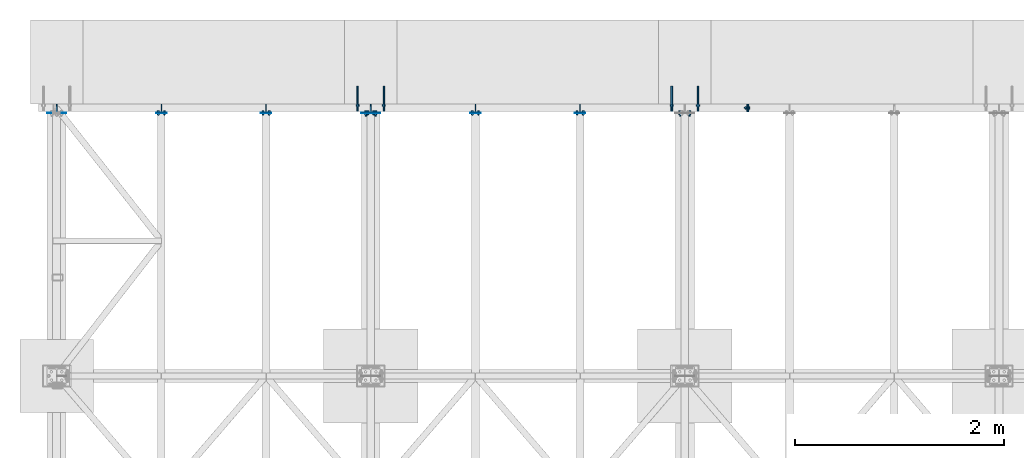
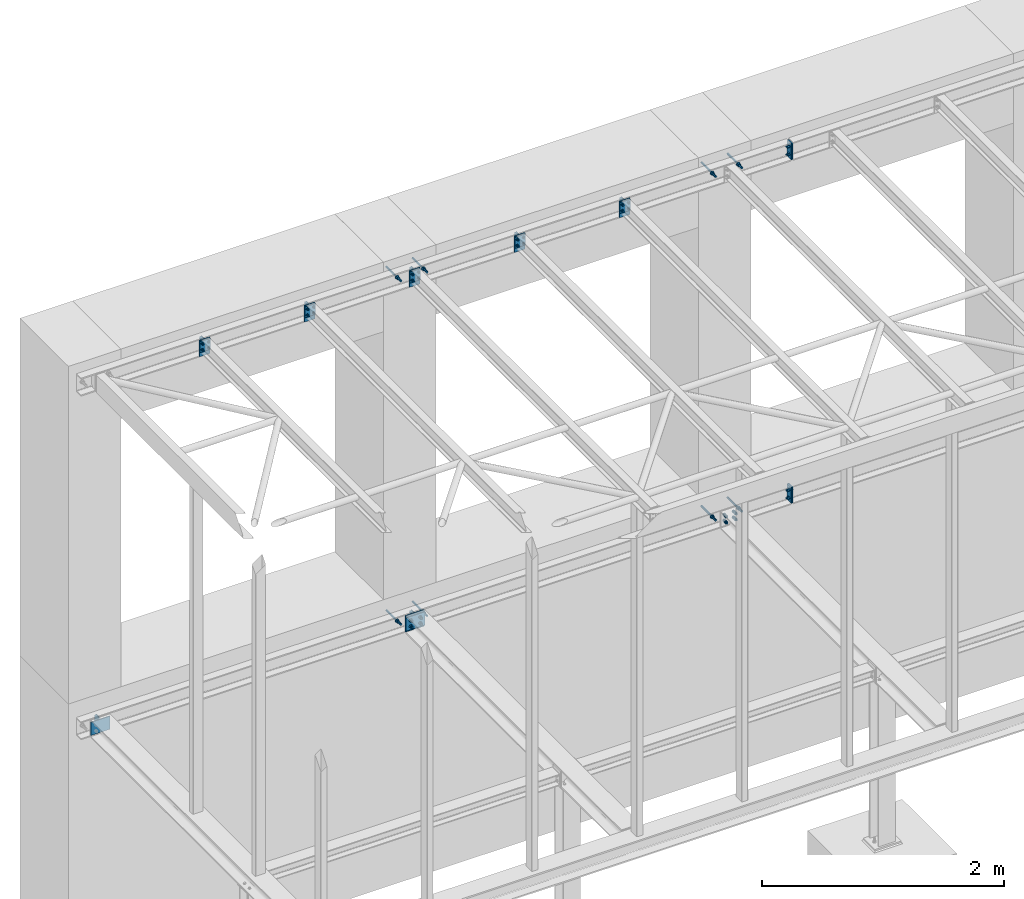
# One storey, part 15 of 22: 24 discrete accessories, 13 mechanical fasteners, 11 elements without a shape of their own.
"""IFC2X3 building model written with IfcOpenShell, lengths in millimetres."""

import ifcopenshell
import ifcopenshell.guid

model = None  # the IFC model being written
_history = None  # IfcOwnerHistory: only IFC2X3 demands one
_inside = {}  # id of a spatial element -> (the spatial element, [elements in it])
_under = {}  # id of a project, library or spatial element -> (it, [spatial elements below it])
_declared = {}  # id of a project -> (the project, [libraries it declares])
_typed = {}  # id of a type object -> (the type object, [elements of that type])
_made_of = {}  # id of a material, layer set ... -> (it, [elements and type objects made of it])


def new_model(schema):
    """Start an empty IFC model of exactly this schema.

    Asked for "IFC4X3", IfcOpenShell would pick the latest addendum, in which some entities
    have other attributes; the version numbers below select the first issue.
    IFC2X3 requires an IfcOwnerHistory on every rooted entity: one is made here for all.
    """
    global model, _history
    if schema == "IFC4X3":
        model = ifcopenshell.file(schema_version=(4, 3, 0, 0))
    else:
        model = ifcopenshell.file(schema=schema)
    _inside.clear()
    _under.clear()
    _declared.clear()
    _typed.clear()
    _made_of.clear()
    _history = None
    if model.schema == "IFC2X3":
        org = make("IfcOrganization", Name="unknown")
        user = make(
            "IfcPersonAndOrganization",
            ThePerson=make("IfcPerson", FamilyName="unknown"),
            TheOrganization=org,
        )
        app = make(
            "IfcApplication",
            ApplicationDeveloper=org,
            Version="unknown",
            ApplicationFullName="unknown",
            ApplicationIdentifier="unknown",
        )
        _history = make(
            "IfcOwnerHistory",
            OwningUser=user,
            OwningApplication=app,
            ChangeAction="ADDED",
            CreationDate=0,
        )
    return model


def make(cls, **values):
    """One entity of the class cls with the attributes given. An attribute that is None is left unset."""
    return model.create_entity(
        cls, **{name: value for name, value in values.items() if value is not None}
    )


def rooted(cls, **values):
    """An entity with a GlobalId (a new one), such as an element, a storey or a relation."""
    return make(cls, GlobalId=ifcopenshell.guid.new(), OwnerHistory=_history, **values)


def si_unit(unit_type, name, prefix=None):
    """IfcSIUnit, for example si_unit("LENGTHUNIT", "METRE", prefix="MILLI")."""
    return make("IfcSIUnit", UnitType=unit_type, Prefix=prefix, Name=name)


def assignment(units):
    """IfcUnitAssignment: the units of a project."""
    return None if units is None else make("IfcUnitAssignment", Units=units)


def point(xyz):
    """IfcCartesianPoint."""
    return None if xyz is None else make("IfcCartesianPoint", Coordinates=xyz)


def direction(xyz):
    """IfcDirection."""
    return None if xyz is None else make("IfcDirection", DirectionRatios=xyz)


def frame(location, z_axis=None, x_axis=None):
    """IfcAxis2Placement3D, a coordinate frame: its origin and axes. An axis left out is left unset."""
    return make(
        "IfcAxis2Placement3D",
        Location=point(location),
        Axis=direction(z_axis),
        RefDirection=direction(x_axis),
    )


def frame_2d(location, x_axis=None):
    """IfcAxis2Placement2D, a coordinate frame in the plane: its origin and x axis."""
    return make(
        "IfcAxis2Placement2D", Location=point(location), RefDirection=direction(x_axis)
    )


def origin_with_axes():
    """The frame at (0, 0, 0) with the z axis (0, 0, 1) and the x axis (1, 0, 0) written out."""
    return frame((0.0, 0.0, 0.0), z_axis=(0.0, 0.0, 1.0), x_axis=(1.0, 0.0, 0.0))


def origin_2d_with_axis():
    """The frame at (0, 0) in the plane with the x axis (1, 0) written out."""
    return frame_2d((0.0, 0.0), x_axis=(1.0, 0.0))


def place(relative_to, where):
    """IfcLocalPlacement: puts the frame where relative to a parent placement (None: the world)."""
    return make(
        "IfcLocalPlacement", PlacementRelTo=relative_to, RelativePlacement=where
    )


def context(
    kind, dimensions, precision=None, world=None, true_north=None, identifier=None
):
    """IfcGeometricRepresentationContext, for example the 3D "Model" context."""
    return make(
        "IfcGeometricRepresentationContext",
        ContextIdentifier=identifier,
        ContextType=kind,
        CoordinateSpaceDimension=dimensions,
        Precision=precision,
        WorldCoordinateSystem=world,
        TrueNorth=true_north,
    )


def subcontext(parent, identifier, kind, view, scale=None):
    """IfcGeometricRepresentationSubContext, for example "Body" below "Model"."""
    return make(
        "IfcGeometricRepresentationSubContext",
        ContextIdentifier=identifier,
        ContextType=kind,
        ParentContext=parent,
        TargetScale=scale,
        TargetView=view,
    )


def project(units=None, contexts=None):
    """IfcProject with its units and contexts."""
    return rooted(
        "IfcProject",
        Name="project",
        RepresentationContexts=contexts,
        UnitsInContext=assignment(units),
    )


def spatial(cls, under=None, at=None, **own):
    """A site, building, storey or space (cls), placed at a placement, below another one or the project."""
    s = rooted(cls, ObjectPlacement=at, **own)
    if under is not None:
        _under.setdefault(under.id(), (under, []))[1].append(s)
    return s


def polyline(points):
    """IfcPolyline through the points."""
    return make("IfcPolyline", Points=[point(p) for p in points])


def circle_curve(where, radius):
    """IfcCircle in the frame where."""
    return make("IfcCircle", Position=where, Radius=radius)


def parameter(value):
    """IfcParameterValue: where a trimmed curve begins or ends, as a parameter of its basis curve."""
    return model.create_entity("IfcParameterValue", value)


def trimmed(basis, trim1, trim2, sense, master):
    """IfcTrimmedCurve: the piece of a basis curve between two trims."""
    return make(
        "IfcTrimmedCurve",
        BasisCurve=basis,
        Trim1=trim1,
        Trim2=trim2,
        SenseAgreement=sense,
        MasterRepresentation=master,
    )


def segment(curve, same_sense, transition):
    """IfcCompositeCurveSegment."""
    return make(
        "IfcCompositeCurveSegment",
        Transition=transition,
        SameSense=same_sense,
        ParentCurve=curve,
    )


def composite_curve(segments, self_intersect=None):
    """IfcCompositeCurve: segments joined end to end."""
    return make("IfcCompositeCurve", Segments=segments, SelfIntersect=self_intersect)


def profile(cls, at=None, kind="AREA", **sizes):
    """A parametric profile (cls). Its sizes go by their IFC names, for example OverallWidth=200.0."""
    return make(cls, ProfileType=kind, Position=at, **sizes)


def circle(**sizes):
    """IfcCircleProfileDef."""
    return profile("IfcCircleProfileDef", **sizes)


def outline(outer, holes=None, kind="AREA"):
    """IfcArbitraryClosedProfileDef: a profile drawn as a closed curve; with holes, ...WithVoids."""
    if holes is None:
        return make("IfcArbitraryClosedProfileDef", ProfileType=kind, OuterCurve=outer)
    return make(
        "IfcArbitraryProfileDefWithVoids",
        ProfileType=kind,
        OuterCurve=outer,
        InnerCurves=holes,
    )


def extrude(swept, where, along, depth):
    """IfcExtrudedAreaSolid: the profile swept, set in the frame where, extruded along a direction by depth."""
    return make(
        "IfcExtrudedAreaSolid",
        SweptArea=swept,
        Position=where,
        ExtrudedDirection=direction(along),
        Depth=depth,
    )


def shape(context_of_items, identifier, shape_type, items):
    """IfcShapeRepresentation: the items that make up one representation, for example the "Body"."""
    return make(
        "IfcShapeRepresentation",
        ContextOfItems=context_of_items,
        RepresentationIdentifier=identifier,
        RepresentationType=shape_type,
        Items=items,
    )


def source(mapping_origin, context_of_items, identifier, shape_type, items):
    """IfcRepresentationMap: a shape defined once, which mapped items show again and again."""
    return make(
        "IfcRepresentationMap",
        MappingOrigin=mapping_origin,
        MappedRepresentation=shape(context_of_items, identifier, shape_type, items),
    )


def transform(
    local_origin,
    x_axis=None,
    y_axis=None,
    z_axis=None,
    scale=None,
    scale2=None,
    scale3=None,
    uniform=True,
):
    """IfcCartesianTransformationOperator3D, or its non-uniform kind. x_axis, y_axis, z_axis: its Axis1, 2, 3."""
    if uniform:
        return make(
            "IfcCartesianTransformationOperator3D",
            Axis1=direction(x_axis),
            Axis2=direction(y_axis),
            LocalOrigin=point(local_origin),
            Scale=scale,
            Axis3=direction(z_axis),
        )
    return make(
        "IfcCartesianTransformationOperator3DnonUniform",
        Axis1=direction(x_axis),
        Axis2=direction(y_axis),
        LocalOrigin=point(local_origin),
        Scale=scale,
        Axis3=direction(z_axis),
        Scale2=scale2,
        Scale3=scale3,
    )


def mapped(mapping_source, mapping_target):
    """IfcMappedItem: shows the shape of a source again, moved by a transform."""
    return make(
        "IfcMappedItem", MappingSource=mapping_source, MappingTarget=mapping_target
    )


def material(Name=None, Category=None):
    """IfcMaterial."""
    return make("IfcMaterial", Name=Name, Category=Category)


def made_of(thing, what):
    """Note that an element or type object is made of a material, layer set ...; save() writes the relation."""
    if what is not None:
        _made_of.setdefault(what.id(), (what, []))[1].append(thing)
    return thing


def type_object(cls, material=None, **own):
    """A type object (cls), such as IfcWallType, which elements share."""
    return made_of(rooted(cls, **own), material)


def element(
    cls,
    number,
    at=None,
    inside=None,
    cuts=None,
    type_object=None,
    material=None,
    context=None,
    identifier="Body",
    shape_type=None,
    held_by="IfcProductDefinitionShape",
    body=None,
    shapes=None,
    **own,
):
    """One element of the class cls, such as IfcWall. Its Tag is "e" and its number.

    at: its placement. inside: the storey or other place that contains it. cuts: it is an
    opening in that element (IfcRelVoidsElement). A single representation is given by context,
    identifier, shape_type and body (its items); several are given by shapes. held_by: the class
    of the entity that holds the representations. save() writes the other relations.
    """
    e = rooted(cls, Tag="e%d" % number, ObjectPlacement=at, **own)
    if body is not None:
        shapes = [shape(context, identifier, shape_type, body)]
    if shapes is not None:
        e.Representation = make(held_by, Representations=shapes)
    if inside is not None:
        _inside.setdefault(inside.id(), (inside, []))[1].append(e)
    if cuts is not None:
        rooted(
            "IfcRelVoidsElement", RelatingBuildingElement=cuts, RelatedOpeningElement=e
        )
    if type_object is not None:
        _typed.setdefault(type_object.id(), (type_object, []))[1].append(e)
    return made_of(e, material)


def aggregate(whole, parts):
    """IfcRelAggregates: a whole, such as a stair, and the parts it consists of."""
    return rooted("IfcRelAggregates", RelatingObject=whole, RelatedObjects=parts)


def save(model, path):
    """Write the relations noted so far, then the file.

    IfcRelAggregates (storeys below a building ...), IfcRelContainedInSpatialStructure (elements
    in a storey), IfcRelDefinesByType, IfcRelAssociatesMaterial and IfcRelDeclares: one each for
    every whole, place, type object, material and project.
    """
    for whole, parts in _under.values():
        aggregate(whole, parts)
    for where, things in _inside.values():
        rooted(
            "IfcRelContainedInSpatialStructure",
            RelatedElements=things,
            RelatingStructure=where,
        )
    for kind, things in _typed.values():
        rooted("IfcRelDefinesByType", RelatedObjects=things, RelatingType=kind)
    for what, things in _made_of.values():
        rooted("IfcRelAssociatesMaterial", RelatedObjects=things, RelatingMaterial=what)
    for by, libraries in _declared.values():
        rooted("IfcRelDeclares", RelatingContext=by, RelatedDefinitions=libraries)
    model.write(path)


model = new_model("IFC2X3")

# Units and contexts
model_context = context("Model", 3, precision=1e-05, world=origin_with_axes())
body_context = subcontext(model_context, "Body", "Model", "MODEL_VIEW")
ifc_project = project(units=[si_unit("LENGTHUNIT", "METRE", prefix="MILLI"), si_unit("AREAUNIT", "SQUARE_METRE"), si_unit("VOLUMEUNIT", "CUBIC_METRE"), si_unit("MASSUNIT", "GRAM", prefix="KILO"), si_unit("TIMEUNIT", "SECOND"), si_unit("PLANEANGLEUNIT", "RADIAN"), si_unit("SOLIDANGLEUNIT", "STERADIAN"), si_unit("THERMODYNAMICTEMPERATUREUNIT", "DEGREE_CELSIUS"), si_unit("LUMINOUSINTENSITYUNIT", "LUMEN")], contexts=[model_context])

# Site, building, storey
site_placement = place(None, origin_with_axes())
site = spatial("IfcSite", under=ifc_project, at=site_placement, Name="Undefined", CompositionType="ELEMENT")
building_placement = place(site_placement, origin_with_axes())
building = spatial("IfcBuilding", under=site, at=building_placement, Name="Undefined", CompositionType="ELEMENT")
storey_placement = place(building_placement, origin_with_axes())
storey = spatial("IfcBuildingStorey", under=building, at=storey_placement, Name="Undefined", CompositionType="ELEMENT", Elevation=0.0)

# Assembly, mechanical fastener
assembly_1_placement = place(storey_placement, origin_with_axes())
assembly_1 = element("IfcElementAssembly", 1, at=assembly_1_placement, inside=storey, Name="Steel Assembly", AssemblyPlace="NOTDEFINED", PredefinedType="RIGID_FRAME")
ifc_material_1 = material(Name="Undefined")
discrete_accessory_type_1 = type_object("IfcDiscreteAccessoryType", Name="Bolt assembly")
shared_shape_1 = source(origin_with_axes(), body_context, "Body", "SweptSolid", [
    extrude(circle(Radius=9.0, at=origin_2d_with_axis()), frame((0.0, -0.1, 0.0), z_axis=(0.0, 1.0, 0.0), x_axis=(1.0, 0.0, 0.0)), (0.0, 0.0, 1.0), 10.1),
    extrude(circle(Radius=9.0, at=origin_2d_with_axis()), frame((0.0, -9.9, 0.0), z_axis=(0.0, 1.0, 0.0), x_axis=(1.0, 0.0, 0.0)), (0.0, 0.0, 1.0), 10.0),
    extrude(outline(polyline([(13.85640646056, 0.0), (6.92820323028, 12.0000000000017), (-6.92820323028, 12.0000000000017), (-13.85640646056, 0.0), (-6.92820323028, -12.0000000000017), (6.92820323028, -12.0000000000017), (13.85640646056, 0.0)])), frame((0.0, -23.0, 0.0), z_axis=(0.0, 1.0, 0.0), x_axis=(1.0, 0.0, 0.0)), (0.0, 0.0, 1.0), 10.0),
    extrude(circle(Radius=8.0, at=origin_2d_with_axis()), frame((0.0, -13.0, 0.0), z_axis=(0.0, 1.0, 0.0), x_axis=(1.0, 0.0, 0.0)), (0.0, 0.0, 1.0), 50.0),
    extrude(circle(Radius=15.0, at=origin_2d_with_axis()), frame((0.0, -13.0, 0.0), z_axis=(0.0, 1.0, 0.0), x_axis=(1.0, 0.0, 0.0)), (0.0, 0.0, 1.0), 3.0),
    extrude(circle(Radius=15.0, at=origin_2d_with_axis()), frame((0.0, 10.0, 0.0), z_axis=(0.0, 1.0, 0.0), x_axis=(1.0, 0.0, 0.0)), (0.0, 0.0, 1.0), 3.0),
    extrude(outline(polyline([(15.4441197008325, 0.0), (7.72205985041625, 13.3750000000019), (-7.72205985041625, 13.3750000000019), (-15.4441197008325, 0.0), (-7.72205985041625, -13.3750000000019), (7.72205985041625, -13.3750000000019), (15.4441197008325, 0.0)])), frame((0.0, 13.0, 0.0), z_axis=(0.0, 1.0, 0.0), x_axis=(1.0, 0.0, 0.0)), (0.0, 0.0, 1.0), 13.0),
])
mechanical_fastener_1_placement = place(assembly_1_placement, frame((6650.0, 3820.5, -249.999999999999), z_axis=(0.0, 0.0, 1.0), x_axis=(0.0, 1.0, 0.0)))
mechanical_fastener_1 = element("IfcMechanicalFastener", 2, at=mechanical_fastener_1_placement, type_object=discrete_accessory_type_1, material=ifc_material_1, Name="Bolt assembly", NominalDiameter=16.0, NominalLength=50.0, context=body_context, shape_type="MappedRepresentation", body=[
    mapped(shared_shape_1, transform((0.0, 0.0, -40.0))),
    mapped(shared_shape_1, transform((0.0, 0.0, 40.0))),
])

assembly_2_placement = place(storey_placement, origin_with_axes())
assembly_2 = element("IfcElementAssembly", 3, at=assembly_2_placement, inside=storey, Name="Steel Assembly", AssemblyPlace="NOTDEFINED", PredefinedType="RIGID_FRAME")
mechanical_fastener_2_placement = place(assembly_2_placement, frame((6650.0, 3820.5, 3210.0), z_axis=(0.0, 0.0, 1.0), x_axis=(0.0, 1.0, 0.0)))
mechanical_fastener_2 = element("IfcMechanicalFastener", 4, at=mechanical_fastener_2_placement, type_object=discrete_accessory_type_1, material=ifc_material_1, Name="Bolt assembly", NominalDiameter=16.0, NominalLength=50.0, context=body_context, shape_type="MappedRepresentation", body=[
    mapped(shared_shape_1, transform((0.0, 0.0, -40.0))),
    mapped(shared_shape_1, transform((0.0, 0.0, 40.0))),
])

# Assembly, discrete accessory
assembly_3_placement = place(storey_placement, origin_with_axes())
assembly_3 = element("IfcElementAssembly", 5, at=assembly_3_placement, inside=storey, Name="Steel Assembly", AssemblyPlace="NOTDEFINED", PredefinedType="RIGID_FRAME")
ifc_material_2 = material(Name="STEEL/S235JR")
discrete_accessory_type_2 = type_object("IfcDiscreteAccessoryType", Name="PLECH")
discrete_accessory_1_placement = place(assembly_3_placement, frame((6645.0, 3855.0, -170.5), z_axis=(1.0, 0.0, 0.0), x_axis=(0.0, -1.0, 0.0)))
discrete_accessory_1 = element("IfcDiscreteAccessory", 6, at=discrete_accessory_1_placement, type_object=discrete_accessory_type_2, material=ifc_material_2, Name="PLECH", ObjectType="PL10*70", context=body_context, shape_type="SweptSolid", body=[
    extrude(outline(polyline([(0.0, 0.0), (70.0, 4.54747350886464e-13), (70.0, 159.0), (-3.63797880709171e-12, 159.0), (0.0, 0.0)])), frame((0.0, 0.0, -5.0), z_axis=(0.0, 0.0, 1.0), x_axis=(1.0, 0.0, 0.0)), (0.0, 0.0, 1.0), 10.0),
])

# Discrete accessory
discrete_accessory_2_placement = place(assembly_1_placement, frame((6655.0, 3855.0, -170.5), z_axis=(1.0, 0.0, 0.0), x_axis=(0.0, -1.0, 0.0)))
discrete_accessory_2 = element("IfcDiscreteAccessory", 7, at=discrete_accessory_2_placement, type_object=discrete_accessory_type_2, material=ifc_material_2, Name="PLECH", ObjectType="PL10*70", context=body_context, shape_type="SweptSolid", body=[
    extrude(outline(polyline([(0.0, 0.0), (70.0, 4.54747350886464e-13), (70.0, 159.0), (-3.63797880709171e-12, 159.0), (0.0, 0.0)])), frame((0.0, 0.0, -5.0), z_axis=(0.0, 0.0, 1.0), x_axis=(1.0, 0.0, 0.0)), (0.0, 0.0, 1.0), 10.0),
])

aggregate(assembly_1, [mechanical_fastener_1, discrete_accessory_2])

# Assembly, discrete accessory
assembly_4_placement = place(storey_placement, origin_with_axes())
assembly_4 = element("IfcElementAssembly", 8, at=assembly_4_placement, inside=storey, Name="Steel Assembly", AssemblyPlace="NOTDEFINED", PredefinedType="RIGID_FRAME")
discrete_accessory_3_placement = place(assembly_4_placement, frame((6645.0, 3855.0, 3289.5), z_axis=(1.0, 0.0, 0.0), x_axis=(0.0, -1.0, 0.0)))
discrete_accessory_3 = element("IfcDiscreteAccessory", 9, at=discrete_accessory_3_placement, type_object=discrete_accessory_type_2, material=ifc_material_2, Name="PLECH", ObjectType="PL10*70", context=body_context, shape_type="SweptSolid", body=[
    extrude(outline(polyline([(0.0, 0.0), (70.0, 4.54747350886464e-13), (70.0, 159.0), (-3.63797880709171e-12, 159.0), (0.0, 0.0)])), frame((0.0, 0.0, -5.0), z_axis=(0.0, 0.0, 1.0), x_axis=(1.0, 0.0, 0.0)), (0.0, 0.0, 1.0), 10.0),
])

# Discrete accessory
discrete_accessory_4_placement = place(assembly_2_placement, frame((6655.0, 3855.0, 3289.5), z_axis=(1.0, 0.0, 0.0), x_axis=(0.0, -1.0, 0.0)))
discrete_accessory_4 = element("IfcDiscreteAccessory", 10, at=discrete_accessory_4_placement, type_object=discrete_accessory_type_2, material=ifc_material_2, Name="PLECH", ObjectType="PL10*70", context=body_context, shape_type="SweptSolid", body=[
    extrude(outline(polyline([(0.0, 0.0), (70.0, 4.54747350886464e-13), (70.0, 159.0), (-3.63797880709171e-12, 159.0), (0.0, 0.0)])), frame((0.0, 0.0, -5.0), z_axis=(0.0, 0.0, 1.0), x_axis=(1.0, 0.0, 0.0)), (0.0, 0.0, 1.0), 10.0),
])

aggregate(assembly_2, [mechanical_fastener_2, discrete_accessory_4])

discrete_accessory_5_placement = place(assembly_3_placement, frame((50.0, 3785.0, -170.5), z_axis=(-1.0, 0.0, 0.0), x_axis=(0.0, 1.0, 0.0)))
discrete_accessory_5 = element("IfcDiscreteAccessory", 11, at=discrete_accessory_5_placement, type_object=discrete_accessory_type_2, material=ifc_material_2, Name="PLECH", ObjectType="PL8*70", context=body_context, shape_type="SweptSolid", body=[
    extrude(outline(composite_curve([segment(polyline([(0.0, 0.0), (49.5, 0.0)]), True, "CONTINUOUS"), segment(trimmed(circle_curve(frame_2d((69.5, 0.0), x_axis=(-1.0, 0.0)), 20.0), [parameter(0.0)], [parameter(4.71238898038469)], False, "PARAMETER"), True, "CONTINUOUS"), segment(polyline([(69.5, 20.0), (69.5, 139.0)]), True, "CONTINUOUS"), segment(trimmed(circle_curve(frame_2d((69.5, 159.0), x_axis=(0.0, -1.0)), 20.0), [parameter(0.0)], [parameter(4.71238898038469)], False, "PARAMETER"), True, "CONTINUOUS"), segment(polyline([(49.5, 159.0), (-3.63797880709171e-12, 159.0), (0.0, 0.0)]), True, "DISCONTINUOUS")], self_intersect=False)), frame((0.0, 0.0, -4.0), z_axis=(0.0, 0.0, 1.0), x_axis=(1.0, 0.0, 0.0)), (0.0, 0.0, 1.0), 8.0),
])

# Assembly, discrete accessory
assembly_5_placement = place(storey_placement, origin_with_axes())
assembly_5 = element("IfcElementAssembly", 12, at=assembly_5_placement, inside=storey, Name="Steel Assembly", AssemblyPlace="NOTDEFINED", PredefinedType="RIGID_FRAME")
discrete_accessory_6_placement = place(assembly_5_placement, frame((-40.0, 3771.0, -184.0), z_axis=(0.0, 1.0, 0.0), x_axis=(1.0, 0.0, 0.0)))
discrete_accessory_6 = element("IfcDiscreteAccessory", 13, at=discrete_accessory_6_placement, type_object=discrete_accessory_type_2, material=ifc_material_2, Name="PLECH", ObjectType="PL8*132", context=body_context, shape_type="SweptSolid", body=[
    extrude(outline(polyline([(0.0, 0.0), (180.0, 0.0), (180.0, 132.0), (0.0, 132.0), (0.0, 0.0)])), frame((0.0, 0.0, -4.0), z_axis=(0.0, 0.0, 1.0), x_axis=(1.0, 0.0, 0.0)), (0.0, 0.0, 1.0), 8.0),
])
aggregate(assembly_5, [discrete_accessory_6])

# Discrete accessory
discrete_accessory_7_placement = place(assembly_3_placement, frame((2960.0, 3780.0, -168.0), z_axis=(0.0, 1.0, 0.0), x_axis=(1.0, 0.0, 0.0)))
discrete_accessory_7 = element("IfcDiscreteAccessory", 14, at=discrete_accessory_7_placement, type_object=discrete_accessory_type_2, material=ifc_material_2, Name="PLECH", ObjectType="PL10*164", context=body_context, shape_type="SweptSolid", body=[
    extrude(outline(polyline([(0.0, 0.0), (180.0, 0.0), (180.0, 164.0), (0.0, 164.0), (0.0, 0.0)])), frame((0.0, 0.0, -5.0), z_axis=(0.0, 0.0, 1.0), x_axis=(1.0, 0.0, 0.0)), (0.0, 0.0, 1.0), 10.0),
])

discrete_accessory_8_placement = place(assembly_3_placement, frame((3050.0, 3785.0, -170.5), z_axis=(-1.0, 0.0, 0.0), x_axis=(0.0, 1.0, 0.0)))
discrete_accessory_8 = element("IfcDiscreteAccessory", 15, at=discrete_accessory_8_placement, type_object=discrete_accessory_type_2, material=ifc_material_2, Name="PLECH", ObjectType="PL8*70", context=body_context, shape_type="SweptSolid", body=[
    extrude(outline(composite_curve([segment(polyline([(0.0, 0.0), (49.5, 0.0)]), True, "CONTINUOUS"), segment(trimmed(circle_curve(frame_2d((69.5, 0.0), x_axis=(-1.0, 0.0)), 20.0), [parameter(0.0)], [parameter(4.71238898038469)], False, "PARAMETER"), True, "CONTINUOUS"), segment(polyline([(69.5, 20.0), (69.5, 139.0)]), True, "CONTINUOUS"), segment(trimmed(circle_curve(frame_2d((69.5, 159.0), x_axis=(0.0, -1.0)), 20.0), [parameter(0.0)], [parameter(4.71238898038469)], False, "PARAMETER"), True, "CONTINUOUS"), segment(polyline([(49.5, 159.0), (-3.63797880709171e-12, 159.0), (0.0, 0.0)]), True, "DISCONTINUOUS")], self_intersect=False)), frame((0.0, 0.0, -4.0), z_axis=(0.0, 0.0, 1.0), x_axis=(1.0, 0.0, 0.0)), (0.0, 0.0, 1.0), 8.0),
])

# Assembly, discrete accessory
assembly_6_placement = place(storey_placement, origin_with_axes())
assembly_6 = element("IfcElementAssembly", 16, at=assembly_6_placement, inside=storey, Name="Steel Assembly", AssemblyPlace="NOTDEFINED", PredefinedType="RIGID_FRAME")
discrete_accessory_9_placement = place(assembly_6_placement, frame((2960.0, 3771.0, -184.0), z_axis=(0.0, 1.0, 0.0), x_axis=(1.0, 0.0, 0.0)))
discrete_accessory_9 = element("IfcDiscreteAccessory", 17, at=discrete_accessory_9_placement, type_object=discrete_accessory_type_2, material=ifc_material_2, Name="PLECH", ObjectType="PL8*132", context=body_context, shape_type="SweptSolid", body=[
    extrude(outline(polyline([(0.0, 0.0), (180.0, 0.0), (180.0, 132.0), (0.0, 132.0), (0.0, 0.0)])), frame((0.0, 0.0, -4.0), z_axis=(0.0, 0.0, 1.0), x_axis=(1.0, 0.0, 0.0)), (0.0, 0.0, 1.0), 8.0),
])
aggregate(assembly_6, [discrete_accessory_9])

# Discrete accessory
discrete_accessory_10_placement = place(assembly_4_placement, frame((1050.0, 3785.0, 3289.5), z_axis=(-1.0, 0.0, 0.0), x_axis=(0.0, 1.0, 0.0)))
discrete_accessory_10 = element("IfcDiscreteAccessory", 18, at=discrete_accessory_10_placement, type_object=discrete_accessory_type_2, material=ifc_material_2, Name="PLECH", ObjectType="PL6*70", context=body_context, shape_type="SweptSolid", body=[
    extrude(outline(composite_curve([segment(polyline([(0.0, 0.0), (49.5, 0.0)]), True, "CONTINUOUS"), segment(trimmed(circle_curve(frame_2d((69.5, 0.0), x_axis=(-1.0, 0.0)), 20.0), [parameter(0.0)], [parameter(4.71238898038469)], False, "PARAMETER"), True, "CONTINUOUS"), segment(polyline([(69.5, 20.0), (69.5, 139.0)]), True, "CONTINUOUS"), segment(trimmed(circle_curve(frame_2d((69.5, 159.0), x_axis=(0.0, -1.0)), 20.0), [parameter(0.0)], [parameter(4.71238898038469)], False, "PARAMETER"), True, "CONTINUOUS"), segment(polyline([(49.5, 159.0), (-3.63797880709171e-12, 159.0), (0.0, 0.0)]), True, "DISCONTINUOUS")], self_intersect=False)), frame((0.0, 0.0, -3.0), z_axis=(0.0, 0.0, 1.0), x_axis=(1.0, 0.0, 0.0)), (0.0, 0.0, 1.0), 6.0),
])

# Assembly, discrete accessory
assembly_7_placement = place(storey_placement, origin_with_axes())
assembly_7 = element("IfcElementAssembly", 19, at=assembly_7_placement, inside=storey, Name="Steel Assembly", AssemblyPlace="NOTDEFINED", PredefinedType="RIGID_FRAME")
discrete_accessory_11_placement = place(assembly_7_placement, frame((1000.0, 3771.0, 3175.0), z_axis=(0.0, 1.0, 0.0), x_axis=(0.0, 0.0, 1.0)))
discrete_accessory_11 = element("IfcDiscreteAccessory", 20, at=discrete_accessory_11_placement, type_object=discrete_accessory_type_2, material=ifc_material_2, Name="PLECH", ObjectType="PL8*100", context=body_context, shape_type="SweptSolid", body=[
    extrude(outline(polyline([(0.0, 0.0), (110.0, 0.0), (110.0, 100.0), (-9.09494701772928e-13, 100.0), (0.0, 0.0)])), frame((0.0, 0.0, -4.0), z_axis=(0.0, 0.0, 1.0), x_axis=(1.0, 0.0, 0.0)), (0.0, 0.0, 1.0), 8.0),
])
aggregate(assembly_7, [discrete_accessory_11])

# Discrete accessory
discrete_accessory_12_placement = place(assembly_4_placement, frame((1000.0, 3780.0, 3128.0), z_axis=(0.0, 1.0, 0.0), x_axis=(0.0, 0.0, 1.0)))
discrete_accessory_12 = element("IfcDiscreteAccessory", 21, at=discrete_accessory_12_placement, type_object=discrete_accessory_type_2, material=ifc_material_2, Name="PLECH", ObjectType="PL10*100", context=body_context, shape_type="SweptSolid", body=[
    extrude(outline(polyline([(0.0, 0.0), (164.0, 4.54747350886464e-13), (164.0, 100.0), (-9.09494701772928e-13, 100.0), (0.0, 0.0)])), frame((0.0, 0.0, -5.0), z_axis=(0.0, 0.0, 1.0), x_axis=(1.0, 0.0, 0.0)), (0.0, 0.0, 1.0), 10.0),
])

discrete_accessory_13_placement = place(assembly_4_placement, frame((2050.0, 3785.0, 3289.5), z_axis=(-1.0, 0.0, 0.0), x_axis=(0.0, 1.0, 0.0)))
discrete_accessory_13 = element("IfcDiscreteAccessory", 22, at=discrete_accessory_13_placement, type_object=discrete_accessory_type_2, material=ifc_material_2, Name="PLECH", ObjectType="PL6*70", context=body_context, shape_type="SweptSolid", body=[
    extrude(outline(composite_curve([segment(polyline([(0.0, 0.0), (49.5, 0.0)]), True, "CONTINUOUS"), segment(trimmed(circle_curve(frame_2d((69.5, 0.0), x_axis=(-1.0, 0.0)), 20.0), [parameter(0.0)], [parameter(4.71238898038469)], False, "PARAMETER"), True, "CONTINUOUS"), segment(polyline([(69.5, 20.0), (69.5, 139.0)]), True, "CONTINUOUS"), segment(trimmed(circle_curve(frame_2d((69.5, 159.0), x_axis=(0.0, -1.0)), 20.0), [parameter(0.0)], [parameter(4.71238898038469)], False, "PARAMETER"), True, "CONTINUOUS"), segment(polyline([(49.5, 159.0), (-3.63797880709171e-12, 159.0), (0.0, 0.0)]), True, "DISCONTINUOUS")], self_intersect=False)), frame((0.0, 0.0, -3.0), z_axis=(0.0, 0.0, 1.0), x_axis=(1.0, 0.0, 0.0)), (0.0, 0.0, 1.0), 6.0),
])

# Assembly, discrete accessory
assembly_8_placement = place(storey_placement, origin_with_axes())
assembly_8 = element("IfcElementAssembly", 23, at=assembly_8_placement, inside=storey, Name="Steel Assembly", AssemblyPlace="NOTDEFINED", PredefinedType="RIGID_FRAME")
discrete_accessory_14_placement = place(assembly_8_placement, frame((2000.0, 3771.0, 3175.0), z_axis=(0.0, 1.0, 0.0), x_axis=(0.0, 0.0, 1.0)))
discrete_accessory_14 = element("IfcDiscreteAccessory", 24, at=discrete_accessory_14_placement, type_object=discrete_accessory_type_2, material=ifc_material_2, Name="PLECH", ObjectType="PL8*100", context=body_context, shape_type="SweptSolid", body=[
    extrude(outline(polyline([(0.0, 0.0), (110.0, 0.0), (110.0, 100.0), (-9.09494701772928e-13, 100.0), (0.0, 0.0)])), frame((0.0, 0.0, -4.0), z_axis=(0.0, 0.0, 1.0), x_axis=(1.0, 0.0, 0.0)), (0.0, 0.0, 1.0), 8.0),
])
aggregate(assembly_8, [discrete_accessory_14])

# Discrete accessory
discrete_accessory_15_placement = place(assembly_4_placement, frame((2000.0, 3780.0, 3128.0), z_axis=(0.0, 1.0, 0.0), x_axis=(0.0, 0.0, 1.0)))
discrete_accessory_15 = element("IfcDiscreteAccessory", 25, at=discrete_accessory_15_placement, type_object=discrete_accessory_type_2, material=ifc_material_2, Name="PLECH", ObjectType="PL10*100", context=body_context, shape_type="SweptSolid", body=[
    extrude(outline(polyline([(0.0, 0.0), (164.0, 4.54747350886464e-13), (164.0, 100.0), (-9.09494701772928e-13, 100.0), (0.0, 0.0)])), frame((0.0, 0.0, -5.0), z_axis=(0.0, 0.0, 1.0), x_axis=(1.0, 0.0, 0.0)), (0.0, 0.0, 1.0), 10.0),
])

discrete_accessory_16_placement = place(assembly_4_placement, frame((5050.0, 3785.0, 3289.5), z_axis=(-1.0, 0.0, 0.0), x_axis=(0.0, 1.0, 0.0)))
discrete_accessory_16 = element("IfcDiscreteAccessory", 26, at=discrete_accessory_16_placement, type_object=discrete_accessory_type_2, material=ifc_material_2, Name="PLECH", ObjectType="PL6*70", context=body_context, shape_type="SweptSolid", body=[
    extrude(outline(composite_curve([segment(polyline([(0.0, 0.0), (49.5, 0.0)]), True, "CONTINUOUS"), segment(trimmed(circle_curve(frame_2d((69.5, 0.0), x_axis=(-1.0, 0.0)), 20.0), [parameter(0.0)], [parameter(4.71238898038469)], False, "PARAMETER"), True, "CONTINUOUS"), segment(polyline([(69.5, 20.0), (69.5, 139.0)]), True, "CONTINUOUS"), segment(trimmed(circle_curve(frame_2d((69.5, 159.0), x_axis=(0.0, -1.0)), 20.0), [parameter(0.0)], [parameter(4.71238898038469)], False, "PARAMETER"), True, "CONTINUOUS"), segment(polyline([(49.5, 159.0), (-3.63797880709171e-12, 159.0), (0.0, 0.0)]), True, "DISCONTINUOUS")], self_intersect=False)), frame((0.0, 0.0, -3.0), z_axis=(0.0, 0.0, 1.0), x_axis=(1.0, 0.0, 0.0)), (0.0, 0.0, 1.0), 6.0),
])

# Assembly, discrete accessory
assembly_9_placement = place(storey_placement, origin_with_axes())
assembly_9 = element("IfcElementAssembly", 27, at=assembly_9_placement, inside=storey, Name="Steel Assembly", AssemblyPlace="NOTDEFINED", PredefinedType="RIGID_FRAME")
discrete_accessory_17_placement = place(assembly_9_placement, frame((5000.0, 3771.0, 3175.0), z_axis=(0.0, 1.0, 0.0), x_axis=(0.0, 0.0, 1.0)))
discrete_accessory_17 = element("IfcDiscreteAccessory", 28, at=discrete_accessory_17_placement, type_object=discrete_accessory_type_2, material=ifc_material_2, Name="PLECH", ObjectType="PL8*100", context=body_context, shape_type="SweptSolid", body=[
    extrude(outline(polyline([(0.0, 0.0), (110.0, 0.0), (110.0, 100.0), (-9.09494701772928e-13, 100.0), (0.0, 0.0)])), frame((0.0, 0.0, -4.0), z_axis=(0.0, 0.0, 1.0), x_axis=(1.0, 0.0, 0.0)), (0.0, 0.0, 1.0), 8.0),
])
aggregate(assembly_9, [discrete_accessory_17])

# Discrete accessory
discrete_accessory_18_placement = place(assembly_4_placement, frame((5000.0, 3780.0, 3128.0), z_axis=(0.0, 1.0, 0.0), x_axis=(0.0, 0.0, 1.0)))
discrete_accessory_18 = element("IfcDiscreteAccessory", 29, at=discrete_accessory_18_placement, type_object=discrete_accessory_type_2, material=ifc_material_2, Name="PLECH", ObjectType="PL10*100", context=body_context, shape_type="SweptSolid", body=[
    extrude(outline(polyline([(0.0, 0.0), (164.0, 4.54747350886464e-13), (164.0, 100.0), (-9.09494701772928e-13, 100.0), (0.0, 0.0)])), frame((0.0, 0.0, -5.0), z_axis=(0.0, 0.0, 1.0), x_axis=(1.0, 0.0, 0.0)), (0.0, 0.0, 1.0), 10.0),
])

discrete_accessory_19_placement = place(assembly_4_placement, frame((4050.0, 3785.0, 3289.5), z_axis=(-1.0, 0.0, 0.0), x_axis=(0.0, 1.0, 0.0)))
discrete_accessory_19 = element("IfcDiscreteAccessory", 30, at=discrete_accessory_19_placement, type_object=discrete_accessory_type_2, material=ifc_material_2, Name="PLECH", ObjectType="PL6*70", context=body_context, shape_type="SweptSolid", body=[
    extrude(outline(composite_curve([segment(polyline([(0.0, 0.0), (49.5, 0.0)]), True, "CONTINUOUS"), segment(trimmed(circle_curve(frame_2d((69.5, 0.0), x_axis=(-1.0, 0.0)), 20.0), [parameter(0.0)], [parameter(4.71238898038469)], False, "PARAMETER"), True, "CONTINUOUS"), segment(polyline([(69.5, 20.0), (69.5, 139.0)]), True, "CONTINUOUS"), segment(trimmed(circle_curve(frame_2d((69.5, 159.0), x_axis=(0.0, -1.0)), 20.0), [parameter(0.0)], [parameter(4.71238898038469)], False, "PARAMETER"), True, "CONTINUOUS"), segment(polyline([(49.5, 159.0), (-3.63797880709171e-12, 159.0), (0.0, 0.0)]), True, "DISCONTINUOUS")], self_intersect=False)), frame((0.0, 0.0, -3.0), z_axis=(0.0, 0.0, 1.0), x_axis=(1.0, 0.0, 0.0)), (0.0, 0.0, 1.0), 6.0),
])

# Assembly, discrete accessory
assembly_10_placement = place(storey_placement, origin_with_axes())
assembly_10 = element("IfcElementAssembly", 31, at=assembly_10_placement, inside=storey, Name="Steel Assembly", AssemblyPlace="NOTDEFINED", PredefinedType="RIGID_FRAME")
discrete_accessory_20_placement = place(assembly_10_placement, frame((4000.0, 3771.0, 3175.0), z_axis=(0.0, 1.0, 0.0), x_axis=(0.0, 0.0, 1.0)))
discrete_accessory_20 = element("IfcDiscreteAccessory", 32, at=discrete_accessory_20_placement, type_object=discrete_accessory_type_2, material=ifc_material_2, Name="PLECH", ObjectType="PL8*100", context=body_context, shape_type="SweptSolid", body=[
    extrude(outline(polyline([(0.0, 0.0), (110.0, 0.0), (110.0, 100.0), (-9.09494701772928e-13, 100.0), (0.0, 0.0)])), frame((0.0, 0.0, -4.0), z_axis=(0.0, 0.0, 1.0), x_axis=(1.0, 0.0, 0.0)), (0.0, 0.0, 1.0), 8.0),
])
aggregate(assembly_10, [discrete_accessory_20])

# Discrete accessory
discrete_accessory_21_placement = place(assembly_4_placement, frame((4000.0, 3780.0, 3128.0), z_axis=(0.0, 1.0, 0.0), x_axis=(0.0, 0.0, 1.0)))
discrete_accessory_21 = element("IfcDiscreteAccessory", 33, at=discrete_accessory_21_placement, type_object=discrete_accessory_type_2, material=ifc_material_2, Name="PLECH", ObjectType="PL10*100", context=body_context, shape_type="SweptSolid", body=[
    extrude(outline(polyline([(0.0, 0.0), (164.0, 4.54747350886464e-13), (164.0, 100.0), (-9.09494701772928e-13, 100.0), (0.0, 0.0)])), frame((0.0, 0.0, -5.0), z_axis=(0.0, 0.0, 1.0), x_axis=(1.0, 0.0, 0.0)), (0.0, 0.0, 1.0), 10.0),
])

discrete_accessory_22_placement = place(assembly_4_placement, frame((3050.0, 3785.0, 3289.5), z_axis=(-1.0, 0.0, 0.0), x_axis=(0.0, 1.0, 0.0)))
discrete_accessory_22 = element("IfcDiscreteAccessory", 34, at=discrete_accessory_22_placement, type_object=discrete_accessory_type_2, material=ifc_material_2, Name="PLECH", ObjectType="PL6*70", context=body_context, shape_type="SweptSolid", body=[
    extrude(outline(composite_curve([segment(polyline([(0.0, 0.0), (49.5, 0.0)]), True, "CONTINUOUS"), segment(trimmed(circle_curve(frame_2d((69.5, 0.0), x_axis=(-1.0, 0.0)), 20.0), [parameter(0.0)], [parameter(4.71238898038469)], False, "PARAMETER"), True, "CONTINUOUS"), segment(polyline([(69.5, 20.0), (69.5, 139.0)]), True, "CONTINUOUS"), segment(trimmed(circle_curve(frame_2d((69.5, 159.0), x_axis=(0.0, -1.0)), 20.0), [parameter(0.0)], [parameter(4.71238898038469)], False, "PARAMETER"), True, "CONTINUOUS"), segment(polyline([(49.5, 159.0), (-3.63797880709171e-12, 159.0), (0.0, 0.0)]), True, "DISCONTINUOUS")], self_intersect=False)), frame((0.0, 0.0, -3.0), z_axis=(0.0, 0.0, 1.0), x_axis=(1.0, 0.0, 0.0)), (0.0, 0.0, 1.0), 6.0),
])

# Assembly, discrete accessory
assembly_11_placement = place(storey_placement, origin_with_axes())
assembly_11 = element("IfcElementAssembly", 35, at=assembly_11_placement, inside=storey, Name="Steel Assembly", AssemblyPlace="NOTDEFINED", PredefinedType="RIGID_FRAME")
discrete_accessory_23_placement = place(assembly_11_placement, frame((3000.0, 3771.0, 3175.0), z_axis=(0.0, 1.0, 0.0), x_axis=(0.0, 0.0, 1.0)))
discrete_accessory_23 = element("IfcDiscreteAccessory", 36, at=discrete_accessory_23_placement, type_object=discrete_accessory_type_2, material=ifc_material_2, Name="PLECH", ObjectType="PL8*100", context=body_context, shape_type="SweptSolid", body=[
    extrude(outline(polyline([(0.0, 0.0), (110.0, 0.0), (110.0, 100.0), (-9.09494701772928e-13, 100.0), (0.0, 0.0)])), frame((0.0, 0.0, -4.0), z_axis=(0.0, 0.0, 1.0), x_axis=(1.0, 0.0, 0.0)), (0.0, 0.0, 1.0), 8.0),
])
aggregate(assembly_11, [discrete_accessory_23])

# Discrete accessory
discrete_accessory_24_placement = place(assembly_4_placement, frame((3000.0, 3780.0, 3128.0), z_axis=(0.0, 1.0, 0.0), x_axis=(0.0, 0.0, 1.0)))
discrete_accessory_24 = element("IfcDiscreteAccessory", 37, at=discrete_accessory_24_placement, type_object=discrete_accessory_type_2, material=ifc_material_2, Name="PLECH", ObjectType="PL10*100", context=body_context, shape_type="SweptSolid", body=[
    extrude(outline(polyline([(0.0, 0.0), (164.0, 4.54747350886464e-13), (164.0, 100.0), (-9.09494701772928e-13, 100.0), (0.0, 0.0)])), frame((0.0, 0.0, -5.0), z_axis=(0.0, 0.0, 1.0), x_axis=(1.0, 0.0, 0.0)), (0.0, 0.0, 1.0), 10.0),
])

# Mechanical fastener
shared_shape_2 = source(origin_with_axes(), body_context, "Body", "SweptSolid", [
    extrude(circle(Radius=11.0, at=origin_2d_with_axis()), frame((0.0, -5.5, 0.0), z_axis=(0.0, 1.0, 0.0), x_axis=(1.0, 0.0, 0.0)), (0.0, 0.0, 1.0), 5.6),
    extrude(outline(polyline([(9.81495457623, 0.0), (4.907477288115, 8.5000000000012), (-4.907477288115, 8.5000000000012), (-9.81495457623, 0.0), (-4.907477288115, -8.5000000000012), (4.907477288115, -8.5000000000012), (9.81495457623, 0.0)])), frame((0.0, -173.5, 0.0), z_axis=(0.0, 1.0, 0.0), x_axis=(1.0, 0.0, 0.0)), (0.0, 0.0, 1.0), 168.0),
    extrude(circle(Radius=10.0, at=origin_2d_with_axis()), frame((0.0, -5.5, 0.0), z_axis=(0.0, 1.0, 0.0), x_axis=(1.0, 0.0, 0.0)), (0.0, 0.0, 1.0), 72.0),
    extrude(circle(Radius=18.5, at=origin_2d_with_axis()), frame((0.0, 0.0, 0.0), z_axis=(0.0, 1.0, 0.0), x_axis=(1.0, 0.0, 0.0)), (0.0, 0.0, 1.0), 3.0),
    extrude(outline(polyline([(17.3205080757, 0.0), (8.66025403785, 15.0000000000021), (-8.66025403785, 15.0000000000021), (-17.3205080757, 0.0), (-8.66025403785, -15.0000000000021), (8.66025403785, -15.0000000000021), (17.3205080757, 0.0)])), frame((0.0, 3.0, 0.0), z_axis=(0.0, 1.0, 0.0), x_axis=(1.0, 0.0, 0.0)), (0.0, 0.0, 1.0), 16.0),
])
mechanical_fastener_3_placement = place(assembly_4_placement, frame((5925.0, 3854.5, 3210.0), z_axis=(0.0, 0.0, -1.0), x_axis=(1.0, 0.0, 0.0)))
mechanical_fastener_3 = element("IfcMechanicalFastener", 38, at=mechanical_fastener_3_placement, type_object=discrete_accessory_type_1, material=ifc_material_1, Name="Bolt assembly", NominalDiameter=20.0, NominalLength=72.0, context=body_context, shape_type="MappedRepresentation", body=[
    mapped(shared_shape_2, transform((0.0, 0.0, 0.0))),
    mapped(shared_shape_2, transform((250.0, 0.0, 0.0))),
])

mechanical_fastener_4_placement = place(assembly_4_placement, frame((2925.0, 3854.5, 3210.0), z_axis=(0.0, 0.0, -1.0), x_axis=(1.0, 0.0, 0.0)))
mechanical_fastener_4 = element("IfcMechanicalFastener", 39, at=mechanical_fastener_4_placement, type_object=discrete_accessory_type_1, material=ifc_material_1, Name="Bolt assembly", NominalDiameter=20.0, NominalLength=72.0, context=body_context, shape_type="MappedRepresentation", body=[
    mapped(shared_shape_2, transform((0.0, 0.0, 0.0))),
    mapped(shared_shape_2, transform((250.0, 0.0, 0.0))),
])

mechanical_fastener_5_placement = place(assembly_3_placement, frame((2925.0, 3854.5, -250.0), z_axis=(0.0, 0.0, -1.0), x_axis=(1.0, 0.0, 0.0)))
mechanical_fastener_5 = element("IfcMechanicalFastener", 40, at=mechanical_fastener_5_placement, type_object=discrete_accessory_type_1, material=ifc_material_1, Name="Bolt assembly", NominalDiameter=20.0, NominalLength=72.0, context=body_context, shape_type="MappedRepresentation", body=[
    mapped(shared_shape_2, transform((0.0, 0.0, 0.0))),
    mapped(shared_shape_2, transform((250.0, 0.0, 0.0))),
])

mechanical_fastener_6_placement = place(assembly_3_placement, frame((5925.0, 3854.5, -250.0), z_axis=(0.0, 0.0, -1.0), x_axis=(1.0, 0.0, 0.0)))
mechanical_fastener_6 = element("IfcMechanicalFastener", 41, at=mechanical_fastener_6_placement, type_object=discrete_accessory_type_1, material=ifc_material_1, Name="Bolt assembly", NominalDiameter=20.0, NominalLength=72.0, context=body_context, shape_type="MappedRepresentation", body=[
    mapped(shared_shape_2, transform((0.0, 0.0, 0.0))),
    mapped(shared_shape_2, transform((250.0, 0.0, 0.0))),
])

shared_shape_3 = source(origin_with_axes(), body_context, "Body", "SweptSolid", [
    extrude(circle(Radius=9.0, at=origin_2d_with_axis()), frame((0.0, -0.1, 0.0), z_axis=(0.0, 1.0, 0.0), x_axis=(1.0, 0.0, 0.0)), (0.0, 0.0, 1.0), 8.1),
    extrude(circle(Radius=9.0, at=origin_2d_with_axis()), frame((0.0, -9.9, 0.0), z_axis=(0.0, 1.0, 0.0), x_axis=(1.0, 0.0, 0.0)), (0.0, 0.0, 1.0), 10.0),
    extrude(outline(polyline([(13.85640646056, 0.0), (6.92820323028, 12.0000000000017), (-6.92820323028, 12.0000000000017), (-13.85640646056, 0.0), (-6.92820323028, -12.0000000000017), (6.92820323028, -12.0000000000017), (13.85640646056, 0.0)])), frame((0.0, -23.0, 0.0), z_axis=(0.0, 1.0, 0.0), x_axis=(1.0, 0.0, 0.0)), (0.0, 0.0, 1.0), 10.0),
    extrude(circle(Radius=8.0, at=origin_2d_with_axis()), frame((0.0, -13.0, 0.0), z_axis=(0.0, 1.0, 0.0), x_axis=(1.0, 0.0, 0.0)), (0.0, 0.0, 1.0), 50.0),
    extrude(circle(Radius=15.0, at=origin_2d_with_axis()), frame((0.0, -13.0, 0.0), z_axis=(0.0, 1.0, 0.0), x_axis=(1.0, 0.0, 0.0)), (0.0, 0.0, 1.0), 3.0),
    extrude(circle(Radius=15.0, at=origin_2d_with_axis()), frame((0.0, 8.0, 0.0), z_axis=(0.0, 1.0, 0.0), x_axis=(1.0, 0.0, 0.0)), (0.0, 0.0, 1.0), 3.0),
    extrude(outline(polyline([(15.4441197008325, 0.0), (7.72205985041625, 13.3750000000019), (-7.72205985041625, 13.3750000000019), (-15.4441197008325, 0.0), (-7.72205985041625, -13.3750000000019), (7.72205985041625, -13.3750000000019), (15.4441197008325, 0.0)])), frame((0.0, 11.0, 0.0), z_axis=(0.0, 1.0, 0.0), x_axis=(1.0, 0.0, 0.0)), (0.0, 0.0, 1.0), 13.0),
])
mechanical_fastener_7_placement = place(assembly_3_placement, frame((6005.0, 3775.0, -250.0), z_axis=(0.0, 0.0, -1.0), x_axis=(1.0, 0.0, 0.0)))
mechanical_fastener_7 = element("IfcMechanicalFastener", 42, at=mechanical_fastener_7_placement, type_object=discrete_accessory_type_1, material=ifc_material_1, Name="Bolt assembly", NominalDiameter=16.0, NominalLength=50.0, context=body_context, shape_type="MappedRepresentation", body=[
    mapped(shared_shape_3, transform((0.0, 0.0, -30.0))),
    mapped(shared_shape_3, transform((90.0, 0.0, -30.0))),
    mapped(shared_shape_3, transform((0.0, 0.0, 30.0))),
    mapped(shared_shape_3, transform((90.0, 0.0, 30.0))),
])

mechanical_fastener_8_placement = place(assembly_3_placement, frame((3005.0, 3775.0, -250.0), z_axis=(0.0, 0.0, -1.0), x_axis=(1.0, 0.0, 0.0)))
mechanical_fastener_8 = element("IfcMechanicalFastener", 43, at=mechanical_fastener_8_placement, type_object=discrete_accessory_type_1, material=ifc_material_1, Name="Bolt assembly", NominalDiameter=16.0, NominalLength=50.0, context=body_context, shape_type="MappedRepresentation", body=[
    mapped(shared_shape_3, transform((0.0, 0.0, -30.0))),
    mapped(shared_shape_3, transform((90.0, 0.0, -30.0))),
    mapped(shared_shape_3, transform((0.0, 0.0, 30.0))),
    mapped(shared_shape_3, transform((90.0, 0.0, 30.0))),
])

aggregate(assembly_3, [discrete_accessory_1, mechanical_fastener_5, discrete_accessory_5, mechanical_fastener_6, mechanical_fastener_7, mechanical_fastener_8, discrete_accessory_7, discrete_accessory_8])

shared_shape_4 = source(origin_with_axes(), body_context, "Body", "SweptSolid", [
    extrude(circle(Radius=6.5, at=origin_2d_with_axis()), frame((0.0, -0.1, 0.0), z_axis=(0.0, 1.0, 0.0), x_axis=(1.0, 0.0, 0.0)), (0.0, 0.0, 1.0), 8.1),
    extrude(circle(Radius=6.5, at=origin_2d_with_axis()), frame((0.0, -9.9, 0.0), z_axis=(0.0, 1.0, 0.0), x_axis=(1.0, 0.0, 0.0)), (0.0, 0.0, 1.0), 10.0),
    extrude(outline(polyline([(10.96965511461, 0.0), (5.484827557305, 9.50000000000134), (-5.484827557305, 9.50000000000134), (-10.96965511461, 0.0), (-5.484827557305, -9.50000000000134), (5.484827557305, -9.50000000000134), (10.96965511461, 0.0)])), frame((0.0, -20.0, 0.0), z_axis=(0.0, 1.0, 0.0), x_axis=(1.0, 0.0, 0.0)), (0.0, 0.0, 1.0), 7.5),
    extrude(circle(Radius=6.0, at=origin_2d_with_axis()), frame((0.0, -12.5, 0.0), z_axis=(0.0, 1.0, 0.0), x_axis=(1.0, 0.0, 0.0)), (0.0, 0.0, 1.0), 40.0),
    extrude(circle(Radius=12.0, at=origin_2d_with_axis()), frame((0.0, -12.5, 0.0), z_axis=(0.0, 1.0, 0.0), x_axis=(1.0, 0.0, 0.0)), (0.0, 0.0, 1.0), 2.5),
    extrude(circle(Radius=12.0, at=origin_2d_with_axis()), frame((0.0, 8.0, 0.0), z_axis=(0.0, 1.0, 0.0), x_axis=(1.0, 0.0, 0.0)), (0.0, 0.0, 1.0), 2.5),
    extrude(outline(polyline([(10.96965511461, 0.0), (5.484827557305, 9.50000000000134), (-5.484827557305, 9.50000000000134), (-10.96965511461, 0.0), (-5.484827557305, -9.50000000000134), (5.484827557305, -9.50000000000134), (10.96965511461, 0.0)])), frame((0.0, 10.5, 0.0), z_axis=(0.0, 1.0, 0.0), x_axis=(1.0, 0.0, 0.0)), (0.0, 0.0, 1.0), 10.0),
])
mechanical_fastener_9_placement = place(assembly_4_placement, frame((1020.0, 3775.0, 3230.0), z_axis=(0.0, 0.0, -1.0), x_axis=(1.0, 0.0, 0.0)))
mechanical_fastener_9 = element("IfcMechanicalFastener", 44, at=mechanical_fastener_9_placement, type_object=discrete_accessory_type_1, material=ifc_material_1, Name="Bolt assembly", NominalDiameter=12.0, NominalLength=40.0, context=body_context, shape_type="MappedRepresentation", body=[
    mapped(shared_shape_4, transform((0.0, 0.0, -30.0))),
    mapped(shared_shape_4, transform((60.0, 0.0, -30.0))),
    mapped(shared_shape_4, transform((0.0, 0.0, 30.0))),
    mapped(shared_shape_4, transform((60.0, 0.0, 30.0))),
])

mechanical_fastener_10_placement = place(assembly_4_placement, frame((2020.0, 3775.0, 3230.0), z_axis=(0.0, 0.0, -1.0), x_axis=(1.0, 0.0, 0.0)))
mechanical_fastener_10 = element("IfcMechanicalFastener", 45, at=mechanical_fastener_10_placement, type_object=discrete_accessory_type_1, material=ifc_material_1, Name="Bolt assembly", NominalDiameter=12.0, NominalLength=40.0, context=body_context, shape_type="MappedRepresentation", body=[
    mapped(shared_shape_4, transform((0.0, 0.0, -30.0))),
    mapped(shared_shape_4, transform((60.0, 0.0, -30.0))),
    mapped(shared_shape_4, transform((0.0, 0.0, 30.0))),
    mapped(shared_shape_4, transform((60.0, 0.0, 30.0))),
])

mechanical_fastener_11_placement = place(assembly_4_placement, frame((5020.0, 3775.0, 3230.0), z_axis=(0.0, 0.0, -1.0), x_axis=(1.0, 0.0, 0.0)))
mechanical_fastener_11 = element("IfcMechanicalFastener", 46, at=mechanical_fastener_11_placement, type_object=discrete_accessory_type_1, material=ifc_material_1, Name="Bolt assembly", NominalDiameter=12.0, NominalLength=40.0, context=body_context, shape_type="MappedRepresentation", body=[
    mapped(shared_shape_4, transform((0.0, 0.0, -30.0))),
    mapped(shared_shape_4, transform((60.0, 0.0, -30.0))),
    mapped(shared_shape_4, transform((0.0, 0.0, 30.0))),
    mapped(shared_shape_4, transform((60.0, 0.0, 30.0))),
])

mechanical_fastener_12_placement = place(assembly_4_placement, frame((4020.0, 3775.0, 3230.0), z_axis=(0.0, 0.0, -1.0), x_axis=(1.0, 0.0, 0.0)))
mechanical_fastener_12 = element("IfcMechanicalFastener", 47, at=mechanical_fastener_12_placement, type_object=discrete_accessory_type_1, material=ifc_material_1, Name="Bolt assembly", NominalDiameter=12.0, NominalLength=40.0, context=body_context, shape_type="MappedRepresentation", body=[
    mapped(shared_shape_4, transform((0.0, 0.0, -30.0))),
    mapped(shared_shape_4, transform((60.0, 0.0, -30.0))),
    mapped(shared_shape_4, transform((0.0, 0.0, 30.0))),
    mapped(shared_shape_4, transform((60.0, 0.0, 30.0))),
])

mechanical_fastener_13_placement = place(assembly_4_placement, frame((3020.0, 3775.0, 3230.0), z_axis=(0.0, 0.0, -1.0), x_axis=(1.0, 0.0, 0.0)))
mechanical_fastener_13 = element("IfcMechanicalFastener", 48, at=mechanical_fastener_13_placement, type_object=discrete_accessory_type_1, material=ifc_material_1, Name="Bolt assembly", NominalDiameter=12.0, NominalLength=40.0, context=body_context, shape_type="MappedRepresentation", body=[
    mapped(shared_shape_4, transform((0.0, 0.0, -30.0))),
    mapped(shared_shape_4, transform((60.0, 0.0, -30.0))),
    mapped(shared_shape_4, transform((0.0, 0.0, 30.0))),
    mapped(shared_shape_4, transform((60.0, 0.0, 30.0))),
])

aggregate(assembly_4, [discrete_accessory_3, mechanical_fastener_3, mechanical_fastener_4, mechanical_fastener_9, discrete_accessory_10, discrete_accessory_12, mechanical_fastener_10, discrete_accessory_13, discrete_accessory_15, mechanical_fastener_11, discrete_accessory_16, discrete_accessory_18, mechanical_fastener_12, discrete_accessory_19, discrete_accessory_21, discrete_accessory_22, mechanical_fastener_13, discrete_accessory_24])

save(model, "model.ifc")
